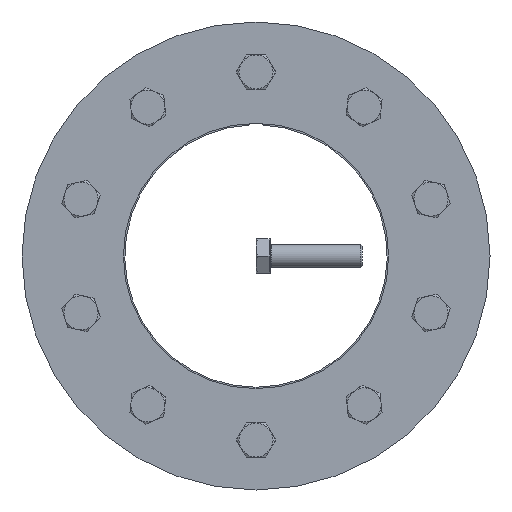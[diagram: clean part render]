
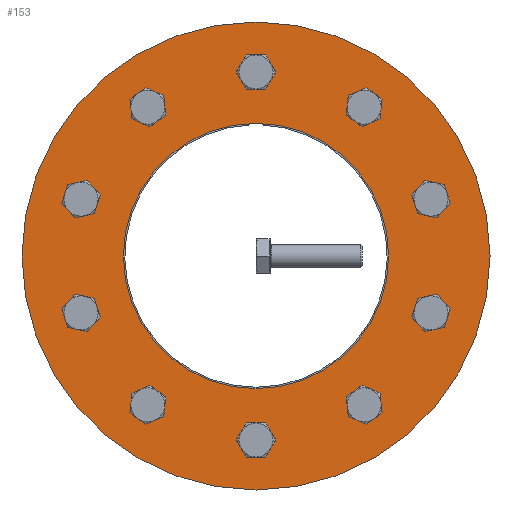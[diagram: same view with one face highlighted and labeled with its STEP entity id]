
A CAD part, front view. The second image highlights one B-rep face of the part: STEP entity #153.
In plain terms, the highlighted planar face has unit normal (0, -1, 0).
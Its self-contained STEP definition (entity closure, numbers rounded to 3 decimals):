
#153 = ADVANCED_FACE( '', ( #362, #363, #364, #365, #366, #367, #368, #369, #370, #371, #372, #373 ), #374, .F. );
#362 = FACE_BOUND( '', #595, .T. );
#363 = FACE_BOUND( '', #596, .T. );
#364 = FACE_BOUND( '', #597, .T. );
#365 = FACE_BOUND( '', #598, .T. );
#366 = FACE_BOUND( '', #599, .T. );
#367 = FACE_BOUND( '', #600, .T. );
#368 = FACE_OUTER_BOUND( '', #601, .T. );
#369 = FACE_BOUND( '', #602, .T. );
#370 = FACE_BOUND( '', #603, .T. );
#371 = FACE_BOUND( '', #604, .T. );
#372 = FACE_BOUND( '', #605, .T. );
#373 = FACE_BOUND( '', #606, .T. );
#374 = PLANE( '', #607 );
#595 = EDGE_LOOP( '', ( #960 ) );
#596 = EDGE_LOOP( '', ( #961 ) );
#597 = EDGE_LOOP( '', ( #962 ) );
#598 = EDGE_LOOP( '', ( #963 ) );
#599 = EDGE_LOOP( '', ( #964 ) );
#600 = EDGE_LOOP( '', ( #965 ) );
#601 = EDGE_LOOP( '', ( #966 ) );
#602 = EDGE_LOOP( '', ( #967 ) );
#603 = EDGE_LOOP( '', ( #968 ) );
#604 = EDGE_LOOP( '', ( #969 ) );
#605 = EDGE_LOOP( '', ( #970 ) );
#606 = EDGE_LOOP( '', ( #971 ) );
#607 = AXIS2_PLACEMENT_3D( '', #972, #973, #974 );
#960 = ORIENTED_EDGE( '', *, *, #1143, .T. );
#961 = ORIENTED_EDGE( '', *, *, #1148, .T. );
#962 = ORIENTED_EDGE( '', *, *, #1105, .T. );
#963 = ORIENTED_EDGE( '', *, *, #1209, .T. );
#964 = ORIENTED_EDGE( '', *, *, #1111, .T. );
#965 = ORIENTED_EDGE( '', *, *, #1210, .F. );
#966 = ORIENTED_EDGE( '', *, *, #1186, .T. );
#967 = ORIENTED_EDGE( '', *, *, #1169, .T. );
#968 = ORIENTED_EDGE( '', *, *, #1151, .T. );
#969 = ORIENTED_EDGE( '', *, *, #1166, .T. );
#970 = ORIENTED_EDGE( '', *, *, #1138, .T. );
#971 = ORIENTED_EDGE( '', *, *, #1118, .T. );
#972 = CARTESIAN_POINT( '', ( 0., -43., 165. ) );
#973 = DIRECTION( '', ( 0., 1., 0. ) );
#974 = DIRECTION( '', ( 0., 0., 1. ) );
#1105 = EDGE_CURVE( '', #1297, #1297, #1298, .T. );
#1111 = EDGE_CURVE( '', #1307, #1307, #1308, .T. );
#1118 = EDGE_CURVE( '', #1318, #1318, #1319, .T. );
#1138 = EDGE_CURVE( '', #1354, #1354, #1355, .T. );
#1143 = EDGE_CURVE( '', #1362, #1362, #1363, .T. );
#1148 = EDGE_CURVE( '', #1370, #1370, #1371, .T. );
#1151 = EDGE_CURVE( '', #1375, #1375, #1376, .T. );
#1166 = EDGE_CURVE( '', #1399, #1399, #1400, .T. );
#1169 = EDGE_CURVE( '', #1404, #1404, #1405, .T. );
#1186 = EDGE_CURVE( '', #1430, #1430, #1431, .T. );
#1209 = EDGE_CURVE( '', #1463, #1463, #1464, .T. );
#1210 = EDGE_CURVE( '', #1465, #1465, #1466, .T. );
#1297 = VERTEX_POINT( '', #1668 );
#1298 = CIRCLE( '', #1669, 8. );
#1307 = VERTEX_POINT( '', #1678 );
#1308 = CIRCLE( '', #1679, 8. );
#1318 = VERTEX_POINT( '', #1691 );
#1319 = CIRCLE( '', #1692, 8. );
#1354 = VERTEX_POINT( '', #1733 );
#1355 = CIRCLE( '', #1734, 8. );
#1362 = VERTEX_POINT( '', #1741 );
#1363 = CIRCLE( '', #1742, 8. );
#1370 = VERTEX_POINT( '', #1749 );
#1371 = CIRCLE( '', #1750, 8. );
#1375 = VERTEX_POINT( '', #1754 );
#1376 = CIRCLE( '', #1755, 8. );
#1399 = VERTEX_POINT( '', #1790 );
#1400 = CIRCLE( '', #1791, 8. );
#1404 = VERTEX_POINT( '', #1795 );
#1405 = CIRCLE( '', #1796, 8. );
#1430 = VERTEX_POINT( '', #1824 );
#1431 = CIRCLE( '', #1825, 165. );
#1463 = VERTEX_POINT( '', #1864 );
#1464 = CIRCLE( '', #1865, 8. );
#1465 = VERTEX_POINT( '', #1866 );
#1466 = CIRCLE( '', #1867, 93.5 );
#1668 = CARTESIAN_POINT( '', ( 69.793, -43., -109.672 ) );
#1669 = AXIS2_PLACEMENT_3D( '', #1957, #1958, #1959 );
#1678 = CARTESIAN_POINT( '', ( 8., -43., 129.75 ) );
#1679 = AXIS2_PLACEMENT_3D( '', #1969, #1970, #1971 );
#1691 = CARTESIAN_POINT( '', ( -69.793, -43., 109.672 ) );
#1692 = AXIS2_PLACEMENT_3D( '', #1980, #1981, #1982 );
#1733 = CARTESIAN_POINT( '', ( -125.872, -43., -32.487 ) );
#1734 = AXIS2_PLACEMENT_3D( '', #2022, #2023, #2024 );
#1741 = CARTESIAN_POINT( '', ( -120.927, -43., 47.703 ) );
#1742 = AXIS2_PLACEMENT_3D( '', #2031, #2032, #2033 );
#1749 = CARTESIAN_POINT( '', ( -82.737, -43., -100.268 ) );
#1750 = AXIS2_PLACEMENT_3D( '', #2040, #2041, #2042 );
#1754 = CARTESIAN_POINT( '', ( 120.927, -43., -47.703 ) );
#1755 = AXIS2_PLACEMENT_3D( '', #2046, #2047, #2048 );
#1790 = CARTESIAN_POINT( '', ( -8., -43., -129.75 ) );
#1791 = AXIS2_PLACEMENT_3D( '', #2061, #2062, #2063 );
#1795 = CARTESIAN_POINT( '', ( 82.737, -43., 100.268 ) );
#1796 = AXIS2_PLACEMENT_3D( '', #2067, #2068, #2069 );
#1824 = CARTESIAN_POINT( '', ( 0., -43., -165. ) );
#1825 = AXIS2_PLACEMENT_3D( '', #2094, #2095, #2096 );
#1864 = CARTESIAN_POINT( '', ( 125.872, -43., 32.487 ) );
#1865 = AXIS2_PLACEMENT_3D( '', #2122, #2123, #2124 );
#1866 = CARTESIAN_POINT( '', ( 0., -43., -93.5 ) );
#1867 = AXIS2_PLACEMENT_3D( '', #2125, #2126, #2127 );
#1957 = CARTESIAN_POINT( '', ( 76.265, -43., -104.97 ) );
#1958 = DIRECTION( '', ( 0., 1., 0. ) );
#1959 = DIRECTION( '', ( -0.809, 0., -0.588 ) );
#1969 = CARTESIAN_POINT( '', ( 0., -43., 129.75 ) );
#1970 = DIRECTION( '', ( 0., 1., 0. ) );
#1971 = DIRECTION( '', ( 1., 0., 0. ) );
#1980 = CARTESIAN_POINT( '', ( -76.265, -43., 104.97 ) );
#1981 = DIRECTION( '', ( 0., 1., 0. ) );
#1982 = DIRECTION( '', ( 0.809, 0., 0.588 ) );
#2022 = CARTESIAN_POINT( '', ( -123.4, -43., -40.095 ) );
#2023 = DIRECTION( '', ( 0., 1., 0. ) );
#2024 = DIRECTION( '', ( -0.309, 0., 0.951 ) );
#2031 = CARTESIAN_POINT( '', ( -123.4, -43., 40.095 ) );
#2032 = DIRECTION( '', ( 0., 1., 0. ) );
#2033 = DIRECTION( '', ( 0.309, 0., 0.951 ) );
#2040 = CARTESIAN_POINT( '', ( -76.265, -43., -104.97 ) );
#2041 = DIRECTION( '', ( 0., 1., 0. ) );
#2042 = DIRECTION( '', ( -0.809, 0., 0.588 ) );
#2046 = CARTESIAN_POINT( '', ( 123.4, -43., -40.095 ) );
#2047 = DIRECTION( '', ( 0., 1., 0. ) );
#2048 = DIRECTION( '', ( -0.309, 0., -0.951 ) );
#2061 = CARTESIAN_POINT( '', ( 0., -43., -129.75 ) );
#2062 = DIRECTION( '', ( 0., 1., 0. ) );
#2063 = DIRECTION( '', ( -1., 0., 0. ) );
#2067 = CARTESIAN_POINT( '', ( 76.265, -43., 104.97 ) );
#2068 = DIRECTION( '', ( 0., 1., 0. ) );
#2069 = DIRECTION( '', ( 0.809, 0., -0.588 ) );
#2094 = CARTESIAN_POINT( '', ( 0., -43., 0. ) );
#2095 = DIRECTION( '', ( 0., -1., 0. ) );
#2096 = DIRECTION( '', ( 0., 0., -1. ) );
#2122 = CARTESIAN_POINT( '', ( 123.4, -43., 40.095 ) );
#2123 = DIRECTION( '', ( 0., 1., 0. ) );
#2124 = DIRECTION( '', ( 0.309, 0., -0.951 ) );
#2125 = CARTESIAN_POINT( '', ( 0., -43., 0. ) );
#2126 = DIRECTION( '', ( 0., -1., 0. ) );
#2127 = DIRECTION( '', ( 0., 0., -1. ) );
